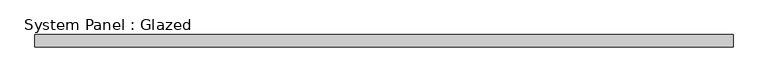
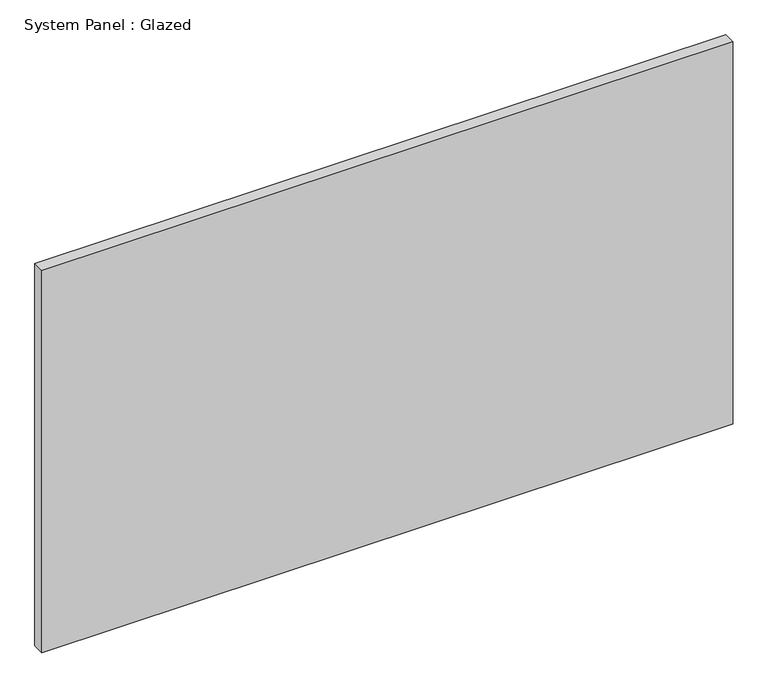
"""IFC4 building model written with IfcOpenShell, lengths in millimetres: plate geometry, System Panel : Glazed."""

from ifc_helpers import new_model, si_unit, origin, origin_with_axes, place, context, project, spatial, polyline, outline, extrude, source, transform, mapped, element, save


def system_panel_glazed_67fd8e91(model_context):
    return source(origin(), model_context, "Body", "SweptSolid", [
        extrude(outline(polyline([(727.075, 19.05), (-727.075, 19.05), (-727.075, 44.45), (727.075, 44.45), (727.075, 19.05)])), origin_with_axes(), (0.0, 0.0, 1.0), 850.9),
    ])


if __name__ == "__main__":
    model = new_model("IFC4")
    model_context = context("Model", 3, world=origin())
    ifc_project = project(units=[si_unit("LENGTHUNIT", "METRE", prefix="MILLI")], contexts=[model_context])
    site = spatial("IfcSite", under=ifc_project)
    building = spatial("IfcBuilding", under=site)
    placement = place(None, origin())
    system_panel_glazed_shape = system_panel_glazed_67fd8e91(model_context)
    element("IfcPlate", 1, ObjectType="System Panel : Glazed", at=placement, inside=building, context=model_context, shape_type="MappedRepresentation", body=[
        mapped(system_panel_glazed_shape, transform((0.0, 0.0, 0.0), x_axis=(1.0, 0.0, 0.0), y_axis=(0.0, 1.0, 0.0), z_axis=(0.0, 0.0, 1.0))),
    ])
    save(model, "model.ifc")
